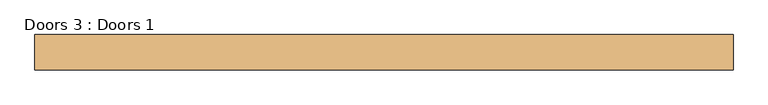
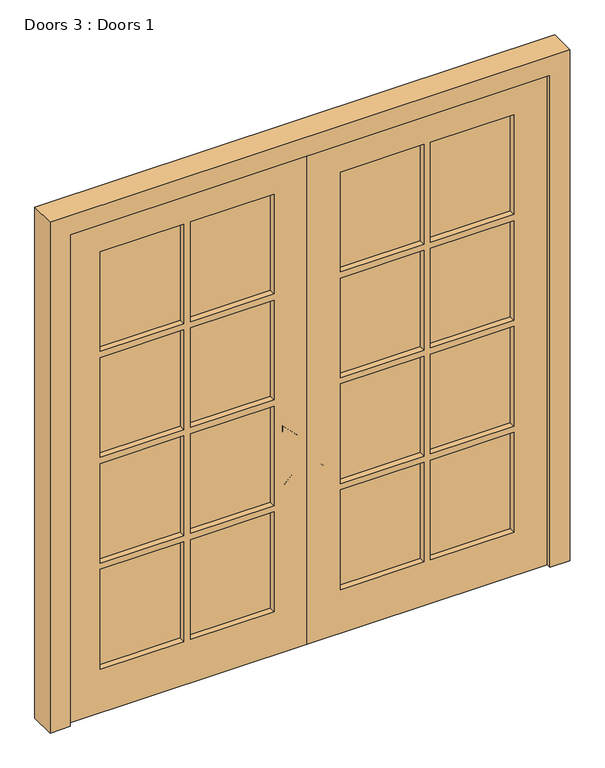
"""IFC4 building model written with IfcOpenShell, lengths in millimetres: door geometry, Doors 3 : Doors 1."""

from ifc_helpers import new_model, si_unit, frame, origin, place, context, project, spatial, polyline, outline, extrude, source, transform, mapped, element, save


def doors_3_doors_1_fd330604(model_context):
    return source(origin(), model_context, "Body", "SweptSolid", [
        extrude(outline(polyline([(5354.8779249, 5752.0084535), (5194.8779249, 5752.0084535), (5154.6611484, 5792.22523), (5172.3207257, 5802.4209917), (5205.0555944, 5769.6861231), (5347.5555944, 5769.6861231), (5386.4464673, 5808.576996), (5411.4464673, 5808.576996), (5354.8779249, 5752.0084535)])), frame((0.0, 10583.7526741, 0.0), z_axis=(0.0, 1.0, 0.0), x_axis=(0.0, 0.0, 1.0)), (0.0, 0.0, 1.0), 80.0),
        extrude(outline(polyline([(5354.8779249, 5678.0316477), (5411.4464673, 5621.4631052), (5386.4464673, 5621.4631052), (5347.5555944, 5660.3539782), (5205.0555944, 5660.3539782), (5172.3207257, 5627.6191095), (5154.6611484, 5637.8148712), (5194.8779249, 5678.0316477), (5354.8779249, 5678.0316477)])), frame((0.0, 10583.7526741, 0.0), z_axis=(0.0, 1.0, 0.0), x_axis=(0.0, 0.0, 1.0)), (0.0, 0.0, 1.0), 80.0),
        extrude(outline(polyline([(6503.0200506, 10606.3854393), (6185.0200506, 10606.3854393), (6185.0200506, 10621.1453923), (6503.0200506, 10621.1453923), (6503.0200506, 10606.3854393)])), frame((0.0, 0.0, 5954.5), z_axis=(0.0, 0.0, 1.0), x_axis=(1.0, 0.0, 0.0)), (0.0, 0.0, 1.0), 401.5),
        extrude(outline(polyline([(6160.0200506, 10606.3854393), (5842.0200506, 10606.3854393), (5842.0200506, 10621.1453923), (6160.0200506, 10621.1453923), (6160.0200506, 10606.3854393)])), frame((0.0, 0.0, 5954.5), z_axis=(0.0, 0.0, 1.0), x_axis=(1.0, 0.0, 0.0)), (0.0, 0.0, 1.0), 401.5),
        extrude(outline(polyline([(6503.0200506, 10606.3854393), (6185.0200506, 10606.3854393), (6185.0200506, 10621.1453923), (6503.0200506, 10621.1453923), (6503.0200506, 10606.3854393)])), frame((0.0, 0.0, 5528.0), z_axis=(0.0, 0.0, 1.0), x_axis=(1.0, 0.0, 0.0)), (0.0, 0.0, 1.0), 401.5),
        extrude(outline(polyline([(6160.0200506, 10606.3854393), (5842.0200506, 10606.3854393), (5842.0200506, 10621.1453923), (6160.0200506, 10621.1453923), (6160.0200506, 10606.3854393)])), frame((0.0, 0.0, 5528.0), z_axis=(0.0, 0.0, 1.0), x_axis=(1.0, 0.0, 0.0)), (0.0, 0.0, 1.0), 401.5),
        extrude(outline(polyline([(6503.0200506, 10606.3854393), (6185.0200506, 10606.3854393), (6185.0200506, 10621.1453923), (6503.0200506, 10621.1453923), (6503.0200506, 10606.3854393)])), frame((0.0, 0.0, 5101.5), z_axis=(0.0, 0.0, 1.0), x_axis=(1.0, 0.0, 0.0)), (0.0, 0.0, 1.0), 401.5),
        extrude(outline(polyline([(6160.0200506, 10606.3854393), (5842.0200506, 10606.3854393), (5842.0200506, 10621.1453923), (6160.0200506, 10621.1453923), (6160.0200506, 10606.3854393)])), frame((0.0, 0.0, 5101.5), z_axis=(0.0, 0.0, 1.0), x_axis=(1.0, 0.0, 0.0)), (0.0, 0.0, 1.0), 401.5),
        extrude(outline(polyline([(6503.0200506, 10606.3854393), (6185.4779456, 10606.3854393), (6185.4779456, 10621.1453923), (6503.0200506, 10621.1453923), (6503.0200506, 10606.3854393)])), frame((0.0, 0.0, 4675.0), z_axis=(0.0, 0.0, 1.0), x_axis=(1.0, 0.0, 0.0)), (0.0, 0.0, 1.0), 401.5),
        extrude(outline(polyline([(6160.0200506, 10606.3854393), (5842.0200506, 10606.3854393), (5842.0200506, 10621.1453923), (6160.0200506, 10621.1453923), (6160.0200506, 10606.3854393)])), frame((0.0, 0.0, 4675.0), z_axis=(0.0, 0.0, 1.0), x_axis=(1.0, 0.0, 0.0)), (0.0, 0.0, 1.0), 401.5),
        extrude(outline(polyline([(6481.0, 5715.0200506), (4500.0, 5715.0200506), (4500.0, 6630.0200506), (6481.0, 6630.0200506), (6481.0, 5715.0200506)]), holes=[polyline([(6356.0, 6185.0200506), (6356.0, 6503.0200506), (5954.5, 6503.0200506), (5954.5, 6185.0200506), (6356.0, 6185.0200506)]), polyline([(5929.5, 6185.0200506), (5929.5, 6503.0200506), (5528.0, 6503.0200506), (5528.0, 6185.0200506), (5929.5, 6185.0200506)]), polyline([(5503.0, 6185.0200506), (5503.0, 6503.0200506), (5101.5, 6503.0200506), (5101.5, 6185.0200506), (5503.0, 6185.0200506)]), polyline([(5076.5, 6185.4779456), (5076.5, 6503.0200506), (4675.0, 6503.0200506), (4675.0, 6185.4779456), (5076.5, 6185.4779456)]), polyline([(5076.5, 5842.0200506), (5076.5, 6160.0200506), (4675.0, 6160.0200506), (4675.0, 5842.0200506), (5076.5, 5842.0200506)]), polyline([(5503.0, 5842.0200506), (5503.0, 6160.0200506), (5101.5, 6160.0200506), (5101.5, 5842.0200506), (5503.0, 5842.0200506)]), polyline([(5929.5, 5842.0200506), (5929.5, 6160.0200506), (5528.0, 6160.0200506), (5528.0, 5842.0200506), (5929.5, 5842.0200506)]), polyline([(6356.0, 5842.0200506), (6356.0, 6160.0200506), (5954.5, 6160.0200506), (5954.5, 5842.0200506), (6356.0, 5842.0200506)])]), frame((0.0, 10582.7771874, 0.0), z_axis=(0.0, 1.0, 0.0), x_axis=(0.0, 0.0, 1.0)), (0.0, 0.0, 1.0), 59.0758308),
        extrude(outline(polyline([(5245.0200506, 10606.3854393), (4927.0200506, 10606.3854393), (4927.0200506, 10621.1453923), (5245.0200506, 10621.1453923), (5245.0200506, 10606.3854393)])), frame((0.0, 0.0, 5954.5), z_axis=(0.0, 0.0, 1.0), x_axis=(1.0, 0.0, 0.0)), (0.0, 0.0, 1.0), 401.5),
        extrude(outline(polyline([(5588.0200506, 10606.3854393), (5270.0200506, 10606.3854393), (5270.0200506, 10621.1453923), (5588.0200506, 10621.1453923), (5588.0200506, 10606.3854393)])), frame((0.0, 0.0, 5954.5), z_axis=(0.0, 0.0, 1.0), x_axis=(1.0, 0.0, 0.0)), (0.0, 0.0, 1.0), 401.5),
        extrude(outline(polyline([(5245.0200506, 10606.3854393), (4927.0200506, 10606.3854393), (4927.0200506, 10621.1453923), (5245.0200506, 10621.1453923), (5245.0200506, 10606.3854393)])), frame((0.0, 0.0, 5528.0), z_axis=(0.0, 0.0, 1.0), x_axis=(1.0, 0.0, 0.0)), (0.0, 0.0, 1.0), 401.5),
        extrude(outline(polyline([(5588.0200506, 10606.3854393), (5270.0200506, 10606.3854393), (5270.0200506, 10621.1453923), (5588.0200506, 10621.1453923), (5588.0200506, 10606.3854393)])), frame((0.0, 0.0, 5528.0), z_axis=(0.0, 0.0, 1.0), x_axis=(1.0, 0.0, 0.0)), (0.0, 0.0, 1.0), 401.5),
        extrude(outline(polyline([(5245.0200506, 10606.3854393), (4927.0200506, 10606.3854393), (4927.0200506, 10621.1453923), (5245.0200506, 10621.1453923), (5245.0200506, 10606.3854393)])), frame((0.0, 0.0, 5101.5), z_axis=(0.0, 0.0, 1.0), x_axis=(1.0, 0.0, 0.0)), (0.0, 0.0, 1.0), 401.5),
        extrude(outline(polyline([(5588.0200506, 10606.3854393), (5270.0200506, 10606.3854393), (5270.0200506, 10621.1453923), (5588.0200506, 10621.1453923), (5588.0200506, 10606.3854393)])), frame((0.0, 0.0, 5101.5), z_axis=(0.0, 0.0, 1.0), x_axis=(1.0, 0.0, 0.0)), (0.0, 0.0, 1.0), 401.5),
        extrude(outline(polyline([(5244.5621557, 10606.3854393), (4927.0200506, 10606.3854393), (4927.0200506, 10621.1453923), (5244.5621557, 10621.1453923), (5244.5621557, 10606.3854393)])), frame((0.0, 0.0, 4675.0), z_axis=(0.0, 0.0, 1.0), x_axis=(1.0, 0.0, 0.0)), (0.0, 0.0, 1.0), 401.5),
        extrude(outline(polyline([(5588.0200506, 10606.3854393), (5270.0200506, 10606.3854393), (5270.0200506, 10621.1453923), (5588.0200506, 10621.1453923), (5588.0200506, 10606.3854393)])), frame((0.0, 0.0, 4675.0), z_axis=(0.0, 0.0, 1.0), x_axis=(1.0, 0.0, 0.0)), (0.0, 0.0, 1.0), 401.5),
        extrude(outline(polyline([(6481.0, 5715.0200506), (6481.0, 4800.0200506), (4500.0, 4800.0200506), (4500.0, 5715.0200506), (6481.0, 5715.0200506)]), holes=[polyline([(6356.0, 5245.0200506), (5954.5, 5245.0200506), (5954.5, 4927.0200506), (6356.0, 4927.0200506), (6356.0, 5245.0200506)]), polyline([(5929.5, 5245.0200506), (5528.0, 5245.0200506), (5528.0, 4927.0200506), (5929.5, 4927.0200506), (5929.5, 5245.0200506)]), polyline([(5503.0, 5245.0200506), (5101.5, 5245.0200506), (5101.5, 4927.0200506), (5503.0, 4927.0200506), (5503.0, 5245.0200506)]), polyline([(5076.5, 5244.5621557), (4675.0, 5244.5621557), (4675.0, 4927.0200506), (5076.5, 4927.0200506), (5076.5, 5244.5621557)]), polyline([(5076.5, 5588.0200506), (4675.0, 5588.0200506), (4675.0, 5270.0200506), (5076.5, 5270.0200506), (5076.5, 5588.0200506)]), polyline([(5503.0, 5588.0200506), (5101.5, 5588.0200506), (5101.5, 5270.0200506), (5503.0, 5270.0200506), (5503.0, 5588.0200506)]), polyline([(5929.5, 5588.0200506), (5528.0, 5588.0200506), (5528.0, 5270.0200506), (5929.5, 5270.0200506), (5929.5, 5588.0200506)]), polyline([(6356.0, 5588.0200506), (5954.5, 5588.0200506), (5954.5, 5270.0200506), (6356.0, 5270.0200506), (6356.0, 5588.0200506)])]), frame((0.0, 10582.7771874, 0.0), z_axis=(0.0, 1.0, 0.0), x_axis=(0.0, 0.0, 1.0)), (0.0, 0.0, 1.0), 59.0758308),
        extrude(outline(polyline([(6557.0, 6706.0200506), (6557.0, 4724.0200506), (4500.0, 4724.0200506), (4500.0, 4800.0200506), (6481.0, 4800.0200506), (6481.0, 6630.0200506), (4500.0, 6630.0200506), (4500.0, 6706.0200506), (6557.0, 6706.0200506)])), frame((0.0, 10563.7526741, 0.0), z_axis=(0.0, 1.0, 0.0), x_axis=(0.0, 0.0, 1.0)), (0.0, 0.0, 1.0), 100.0),
    ])


if __name__ == "__main__":
    model = new_model("IFC4")
    model_context = context("Model", 3, world=origin())
    ifc_project = project(units=[si_unit("LENGTHUNIT", "METRE", prefix="MILLI")], contexts=[model_context])
    site = spatial("IfcSite", under=ifc_project)
    building = spatial("IfcBuilding", under=site)
    placement = place(None, origin())
    doors_3_doors_1_shape = doors_3_doors_1_fd330604(model_context)
    element("IfcDoor", 1, ObjectType="Doors 3 : Doors 1", at=placement, inside=building, context=model_context, shape_type="MappedRepresentation", body=[
        mapped(doors_3_doors_1_shape, transform((0.0, 0.0, 0.0), x_axis=(1.0, 0.0, 0.0), y_axis=(0.0, 1.0, 0.0), z_axis=(0.0, 0.0, 1.0))),
    ])
    save(model, "model.ifc")
